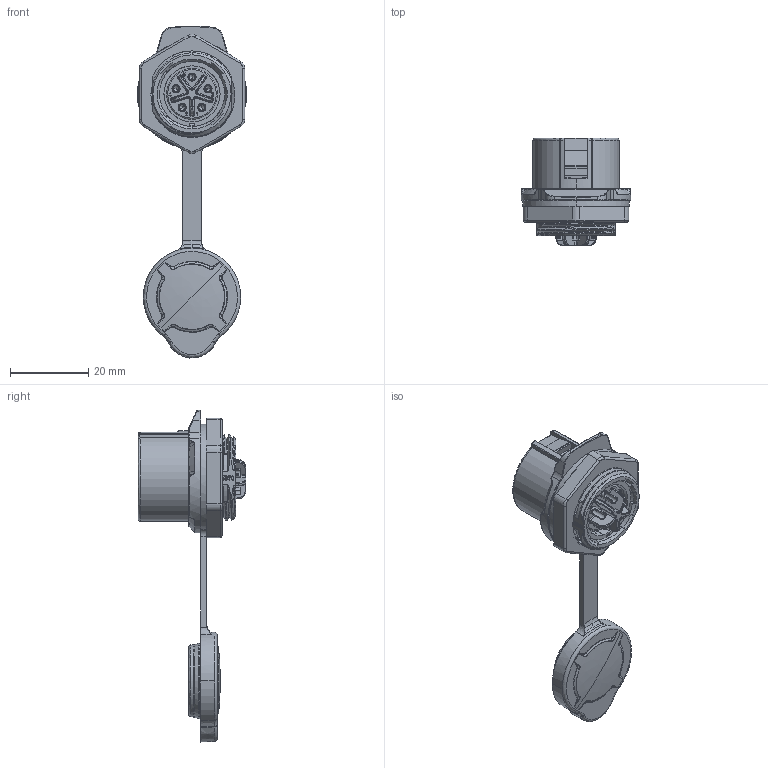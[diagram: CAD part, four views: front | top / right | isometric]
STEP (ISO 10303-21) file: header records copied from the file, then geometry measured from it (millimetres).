
FILE_DESCRIPTION (( 'STEP AP203' ), '1' );
FILE_NAME ('LP-20-J05SX-02-004(全塑胶单孔）.STEP', '2019-06-01T01:24:32', ( 'User' ), ( 'china' ), 'SwSTEP 2.0', 'SolidWorks 2017', '' );
FILE_SCHEMA (( 'CONFIG_CONTROL_DESIGN' ));
Length unit declared in the file: millimetre
Products named in the file (1): LP-20-J05SX-02-004(全塑胶单孔）
Bounding box: 28 x 27.6 x 85.06 mm (x, y, z)
Volume: 10584.6 mm3; surface area: 10181 mm2
Topology: 1 solids, 1 shells, 1280 faces, 3497 edges, 2199 vertices
Faces by surface type: bspline 387, plane 374, cylinder 314, torus 105, cone 100
Entity records: 57733 total; most frequent: CARTESIAN_POINT 28552, ORIENTED_EDGE 6928, DIRECTION 5070, EDGE_CURVE 3464, VERTEX_POINT 2201, AXIS2_PLACEMENT_3D 1903, EDGE_LOOP 1359, FACE_OUTER_BOUND 1281
